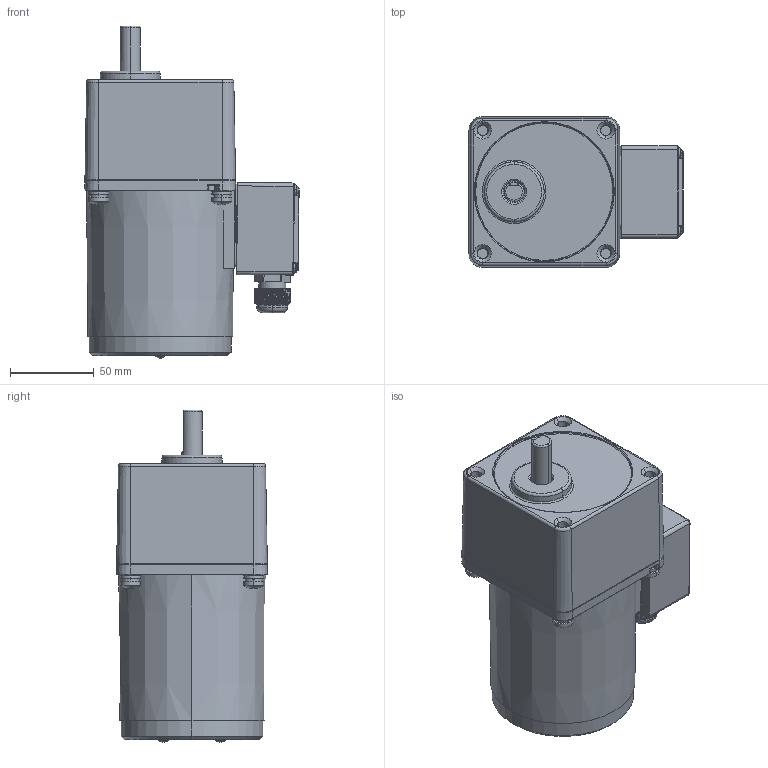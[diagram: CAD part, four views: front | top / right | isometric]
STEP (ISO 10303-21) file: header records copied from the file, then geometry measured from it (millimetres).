
FILE_DESCRIPTION (( 'STEP AP203' ), '1' );
FILE_NAME ('5RK40GN-CT(5GN3K-200K).STEP', '2023-08-08T05:31:52', ( 'Windows User' ), ( 'P R C' ), 'SwSTEP 2.0', 'SolidWorks 2019', '' );
FILE_SCHEMA (( 'CONFIG_CONTROL_DESIGN' ));
Length unit declared in the file: millimetre
Products named in the file (17): 葩璃 (5) ^_____5RK40GN-CT(5GN3K-200K)(2)_5RK40GN-CT(5GN3K-200K); 葩璃 (2) ^_5RK40GN-CT(5GN3K-200K)(2)_5RK40GN-CT(5GN3K-200K); ^___5RK40GN-CT(5GN3K-200K)(2)_5RK40GN-CT(5GN3K-200K); 葩璃 (2) ^_____5RK40GN-CT(5GN3K-200K)(2)_5RK40GN-CT(5GN3K-200K); 葩璃 (6) ^_____5RK40GN-CT(5GN3K-200K)(2)_5RK40GN-CT(5GN3K-200K); ^_5RK40GN-CT(5GN3K-200K)(2)_5RK40GN-CT(5GN3K-200K); 5RK40GN-CT(5GN3K-200K); 葩璃 (3) ^_____5RK40GN-CT(5GN3K-200K)(2)_5RK40GN-CT(5GN3K-200K); ^_____5RK40GN-CT(5GN3K-200K)(2)_5RK40GN-CT(5GN3K-200K); 5GN3K__200K^5RK40GN-CT(5GN3K-200K)(2)_5RK40GN-CT(5GN3K-200K); 葩璃 (4) ^_____5RK40GN-CT(5GN3K-200K)(2)_5RK40GN-CT(5GN3K-200K); ^5RK40GN-CT(5GN3K-200K)(2)_5RK40GN-CT(5GN3K-200K); 5RK40GN-CT(5GN3K-200K)(2)^5RK40GN-CT(5GN3K-200K); ^__5RK40GN-CT(5GN3K-200K)(2)_5RK40GN-CT(5GN3K-200K); ^____5RK40GN-CT(5GN3K-200K)(2)_5RK40GN-CT(5GN3K-200K)
Assembly tree (17 placements, depth 8):
  5RK40GN-CT(5GN3K-200K)
    5RK40GN-CT(5GN3K-200K)(2)^5RK40GN-CT(5GN3K-200K)
      ^5RK40GN-CT(5GN3K-200K)(2)_5RK40GN-CT(5GN3K-200K)
        ^_5RK40GN-CT(5GN3K-200K)(2)_5RK40GN-CT(5GN3K-200K)
          ^__5RK40GN-CT(5GN3K-200K)(2)_5RK40GN-CT(5GN3K-200K)
            ^___5RK40GN-CT(5GN3K-200K)(2)_5RK40GN-CT(5GN3K-200K)
              ^____5RK40GN-CT(5GN3K-200K)(2)_5RK40GN-CT(5GN3K-200K)
                ^_____5RK40GN-CT(5GN3K-200K)(2)_5RK40GN-CT(5GN3K-200K)
                葩璃 (2) ^_____5RK40GN-CT(5GN3K-200K)(2)_5RK40GN-CT(5GN3K-200K)
                葩璃 (3) ^_____5RK40GN-CT(5GN3K-200K)(2)_5RK40GN-CT(5GN3K-200K)
                葩璃 (4) ^_____5RK40GN-CT(5GN3K-200K)(2)_5RK40GN-CT(5GN3K-200K)
                葩璃 (5) ^_____5RK40GN-CT(5GN3K-200K)(2)_5RK40GN-CT(5GN3K-200K)
                葩璃 (6) ^_____5RK40GN-CT(5GN3K-200K)(2)_5RK40GN-CT(5GN3K-200K)
            ^___5RK40GN-CT(5GN3K-200K)(2)_5RK40GN-CT(5GN3K-200K)
        ^_5RK40GN-CT(5GN3K-200K)(2)_5RK40GN-CT(5GN3K-200K)
        葩璃 (2) ^_5RK40GN-CT(5GN3K-200K)(2)_5RK40GN-CT(5GN3K-200K)  x2
      5GN3K__200K^5RK40GN-CT(5GN3K-200K)(2)_5RK40GN-CT(5GN3K-200K)
Bounding box: 127.95 x 90 x 198.35 mm (x, y, z)
Volume: 1232704.9 mm3; surface area: 128844.7 mm2
Topology: 41 solids, 41 shells, 1942 faces, 4956 edges, 3102 vertices
Faces by surface type: cylinder 679, plane 519, cone 498, torus 104, sphere 96, bspline 46
Entity records: 62345 total; most frequent: CARTESIAN_POINT 16100, DIRECTION 10001, ORIENTED_EDGE 9144, EDGE_CURVE 4572, AXIS2_PLACEMENT_3D 4149, VERTEX_POINT 2894, CIRCLE 2356, EDGE_LOOP 1906
